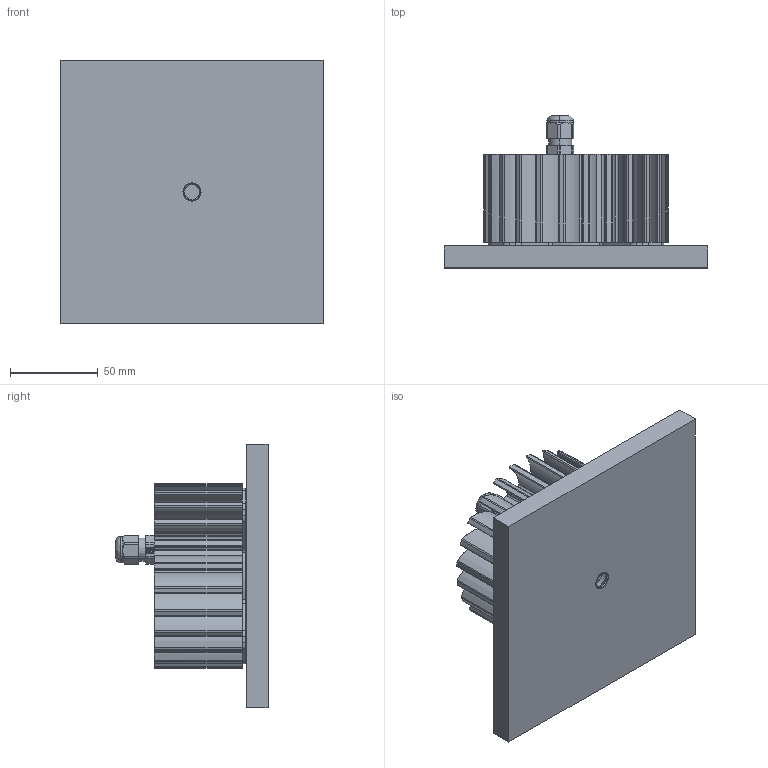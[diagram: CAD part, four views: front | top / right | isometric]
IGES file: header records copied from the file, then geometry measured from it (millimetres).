
Start section: SolidWorks IGES file using analytic representation for surfaces
Global section: file name: C:\Users\JoãoSantos\Desktop\02_3D.2D\01_2020\01_Spot On\06_Octo_x\02_OctoFlush_x\OCTO FLUSH.IGS; native system: SolidWorks 2020; preprocessor: SolidWorks 2020; author: JoãoSantos; date: 201019.122842; units: millimetre
Bounding box: 150 x 86.7 x 150 mm (x, y, z)
Surface area: 126639.9 mm2 (no closed solid volume)
Topology: 0 solids, 0 shells, 410 faces, 4736 edges, 4736 vertices
Faces by surface type: revolution 326, bspline 84
